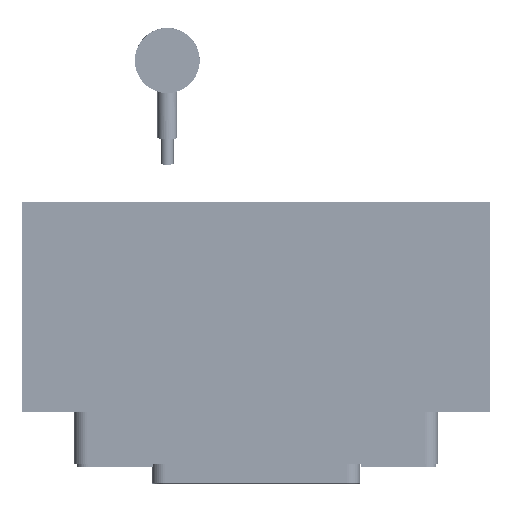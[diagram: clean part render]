
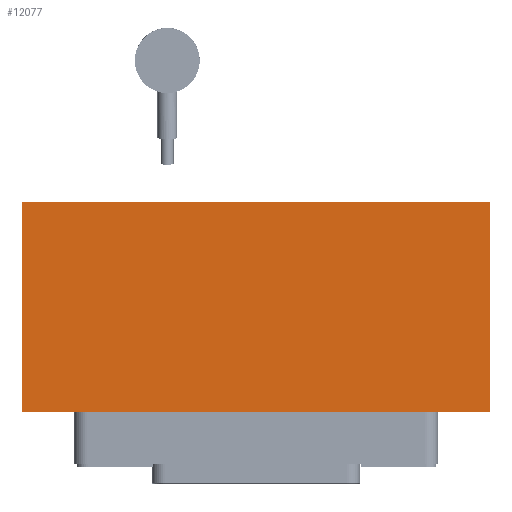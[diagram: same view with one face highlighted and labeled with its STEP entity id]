
A CAD part, top view. The second image highlights one B-rep face of the part: STEP entity #12077.
In plain terms, the highlighted planar face has unit normal (0, 0, 1) as drawn and (0, -1, 0) by its records, which use the part's own axes.
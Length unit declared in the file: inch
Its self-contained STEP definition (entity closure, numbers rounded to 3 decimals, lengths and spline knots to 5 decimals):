
#460 = ORIENTED_EDGE ( 'NONE', *, *, #91974, .F. ) ;
#1636 = LINE ( 'NONE', #26615, #80793 ) ;
#5545 = AXIS2_PLACEMENT_3D ( 'NONE', #20058, #97656, #34654 ) ;
#12077 = ADVANCED_FACE ( 'NONE', ( #59642 ), #42972, .T. ) ;
#12215 = VECTOR ( 'NONE', #26329, 39.37008 ) ;
#14337 = DIRECTION ( 'NONE',  ( 1., 0., 0. ) ) ;
#20058 = CARTESIAN_POINT ( 'NONE',  ( 0., 0., 0. ) ) ;
#20817 = ORIENTED_EDGE ( 'NONE', *, *, #94501, .T. ) ;
#26329 = DIRECTION ( 'NONE',  ( 0., 0., 1. ) ) ;
#26615 = CARTESIAN_POINT ( 'NONE',  ( -2.25, 0., -0.2722 ) ) ;
#29702 = ORIENTED_EDGE ( 'NONE', *, *, #36990, .F. ) ;
#29982 = CARTESIAN_POINT ( 'NONE',  ( -2.25, 0., 1.75 ) ) ;
#31264 = CARTESIAN_POINT ( 'NONE',  ( 2.25, 0., 1.75 ) ) ;
#33110 = LINE ( 'NONE', #57550, #12215 ) ;
#34654 = DIRECTION ( 'NONE',  ( 0., 0., -1. ) ) ;
#36990 = EDGE_CURVE ( 'NONE', #68251, #90763, #94574, .T. ) ;
#42972 = PLANE ( 'NONE',  #5545 ) ;
#46645 = DIRECTION ( 'NONE',  ( 0., 0., -1. ) ) ;
#53439 = CARTESIAN_POINT ( 'NONE',  ( 2.25, 0., 1.75 ) ) ;
#55284 = VECTOR ( 'NONE', #14337, 39.37008 ) ;
#57550 = CARTESIAN_POINT ( 'NONE',  ( -2.25, 0., 1.75 ) ) ;
#59642 = FACE_OUTER_BOUND ( 'NONE', #90707, .T. ) ;
#62763 = LINE ( 'NONE', #29982, #55284 ) ;
#62985 = VECTOR ( 'NONE', #46645, 39.37008 ) ;
#68251 = VERTEX_POINT ( 'NONE', #31264 ) ;
#73941 = DIRECTION ( 'NONE',  ( 1., 0., 0. ) ) ;
#74882 = ORIENTED_EDGE ( 'NONE', *, *, #102436, .F. ) ;
#77243 = CARTESIAN_POINT ( 'NONE',  ( 2.25, 0., -0.2722 ) ) ;
#80793 = VECTOR ( 'NONE', #73941, 39.37008 ) ;
#90707 = EDGE_LOOP ( 'NONE', ( #20817, #29702, #74882, #460 ) ) ;
#90763 = VERTEX_POINT ( 'NONE', #77243 ) ;
#91974 = EDGE_CURVE ( 'NONE', #92651, #102426, #33110, .T. ) ;
#92651 = VERTEX_POINT ( 'NONE', #99606 ) ;
#94501 = EDGE_CURVE ( 'NONE', #92651, #90763, #1636, .T. ) ;
#94574 = LINE ( 'NONE', #53439, #62985 ) ;
#97656 = DIRECTION ( 'NONE',  ( 0., -1., 0. ) ) ;
#98253 = CARTESIAN_POINT ( 'NONE',  ( -2.25, 0., 1.75 ) ) ;
#99606 = CARTESIAN_POINT ( 'NONE',  ( -2.25, 0., -0.2722 ) ) ;
#102426 = VERTEX_POINT ( 'NONE', #98253 ) ;
#102436 = EDGE_CURVE ( 'NONE', #102426, #68251, #62763, .T. ) ;
